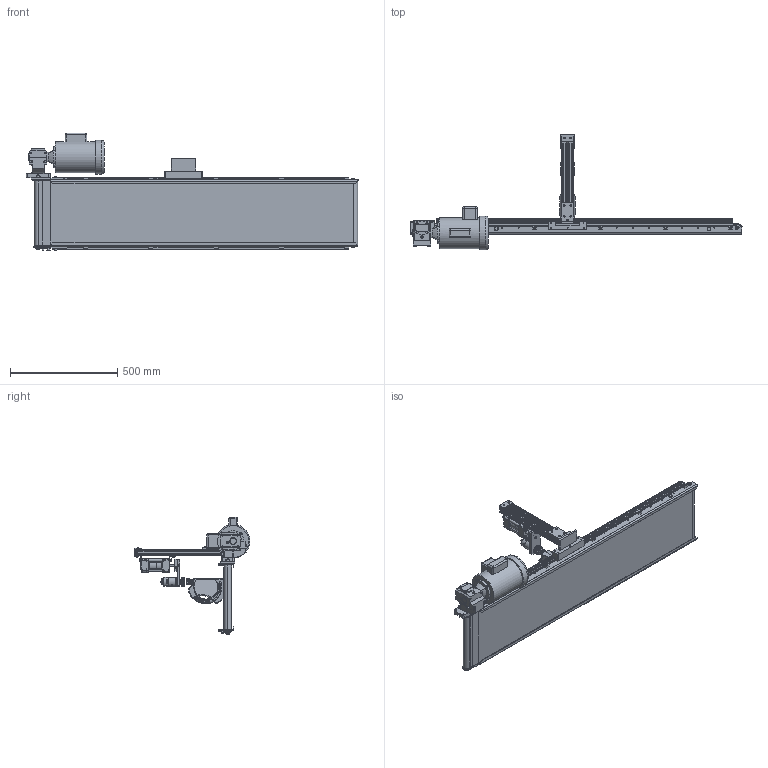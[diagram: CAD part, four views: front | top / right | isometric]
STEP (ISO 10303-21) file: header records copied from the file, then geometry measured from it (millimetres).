
FILE_DESCRIPTION(/* description */ (''),/* implementation_level */ '2;1');
FILE_NAME(/* name */ 'C:\Users\admin\Desktop\inventor\tappatura con nastro\step\chiusura_tappo_pneumatica_nastro.stp',/* time_stamp */ '2021-11-07T20:12:20+01:00',/* author */ ('admin'),/* organization */ (''),/* preprocessor_version */ 'ST-DEVELOPER v18.1',/* originating_system */ 'Autodesk Inventor 2022',/* authorisation */ '');
FILE_SCHEMA (('AUTOMOTIVE_DESIGN { 1 0 10303 214 3 1 1 }'));
Products named in the file (21): automazione_foratura; supporto_trapano; Motor DC 12-24VDC v9; W1400500025/0-1-0-0-0; Left head 50; Barrel 5025; Right head 500; Piston rod 50250; Flange 50; W0950503001-42_; Cylinder head screw DIN 912 M8x20; supporto_trapano2; elle_60_30; AS 1420 - 1973 - M4 x 12; 30X30 - T-slot 40cm; Assembly; Plastic bottle V.3; Bottle Cap; blocco_tappo; nastro; sostegno_nastro
Assembly tree (40 placements, depth 3):
  automazione_foratura
    supporto_trapano
    Motor DC 12-24VDC v9
    W1400500025/0-1-0-0-0
      Left head 50
      Barrel 5025
      Right head 500
      Piston rod 50250
      Flange 50
      W0950503001-42_  x2
      Cylinder head screw DIN 912 M8x20  x4
    supporto_trapano2
    AS 1420 - 1973 - M4 x 12  x16
    elle_60_30
    30X30 - T-slot 40cm  x2
    Assembly
      Plastic bottle V.3
    Bottle Cap
    blocco_tappo
    nastro
    sostegno_nastro
Bounding box: 1550.2 x 541.49 x 548.58 mm (x, y, z)
Volume: 12047475.5 mm3; surface area: 4753601.3 mm2
Topology: 49 solids, 60 shells, 3015 faces, 7438 edges, 4753 vertices
Faces by surface type: plane 1668, cylinder 723, bspline 275, cone 171, torus 148, sphere 30
Full cylindrical faces by diameter (mm): 2 x8, 3 x3, 3.5 x2, 3.599 x2, 4 x21, 4.445 x39, 4.826 x10, 4.976 x18, 4.978 x2, 5 x14, 6 x1, 6.35 x9, 6.5 x2, 6.528 x6, 6.647 x12, 6.8 x4, 7 x16, 7.087 x4, 7.925 x2, 7.938 x8, 8 x10, 8.731 x2, 9 x8, 9.525 x10, 10 x2, 10.414 x4, 10.5 x2, 10.584 x4, 11.1 x5, 11.445 x2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
Entity records: 93846 total; most frequent: CARTESIAN_POINT 30910, ORIENTED_EDGE 12634, DIRECTION 12406, EDGE_CURVE 6317, AXIS2_PLACEMENT_3D 4378, VERTEX_POINT 4031, LINE 3650, VECTOR 3650
